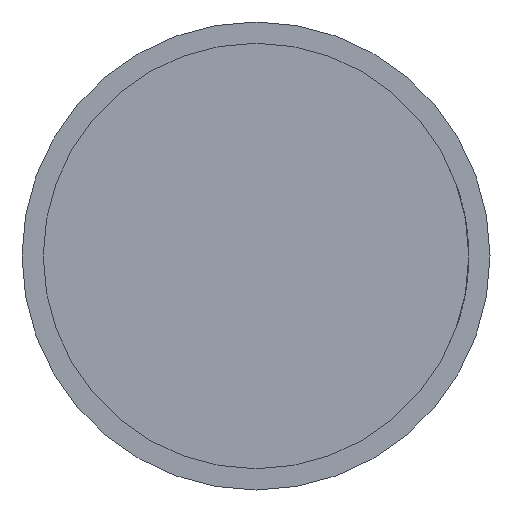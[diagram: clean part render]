
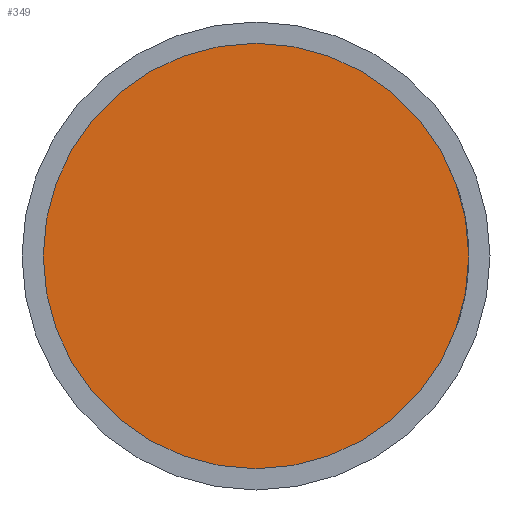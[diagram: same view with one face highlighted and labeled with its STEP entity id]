
A CAD part, left-side view. The second image highlights one B-rep face of the part: STEP entity #349.
In plain terms, the highlighted planar face has unit normal (-1, 0, 0).
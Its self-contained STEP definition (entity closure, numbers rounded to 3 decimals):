
#37=PLANE('',#386);
#55=FACE_OUTER_BOUND('',#80,.T.);
#80=EDGE_LOOP('',(#288));
#114=CIRCLE('',#387,15.);
#188=VERTEX_POINT('',#651);
#230=EDGE_CURVE('',#188,#188,#114,.T.);
#288=ORIENTED_EDGE('',*,*,#230,.F.);
#349=ADVANCED_FACE('',(#55),#37,.T.);
#386=AXIS2_PLACEMENT_3D('',#650,#461,#462);
#387=AXIS2_PLACEMENT_3D('',#652,#463,#464);
#461=DIRECTION('center_axis',(-1.,0.,0.));
#462=DIRECTION('ref_axis',(0.,0.,1.));
#463=DIRECTION('center_axis',(1.,0.,0.));
#464=DIRECTION('ref_axis',(0.,1.,0.));
#650=CARTESIAN_POINT('Origin',(-42.443,7.5,0.));
#651=CARTESIAN_POINT('',(-42.443,15.,0.));
#652=CARTESIAN_POINT('Origin',(-42.443,0.,0.));
